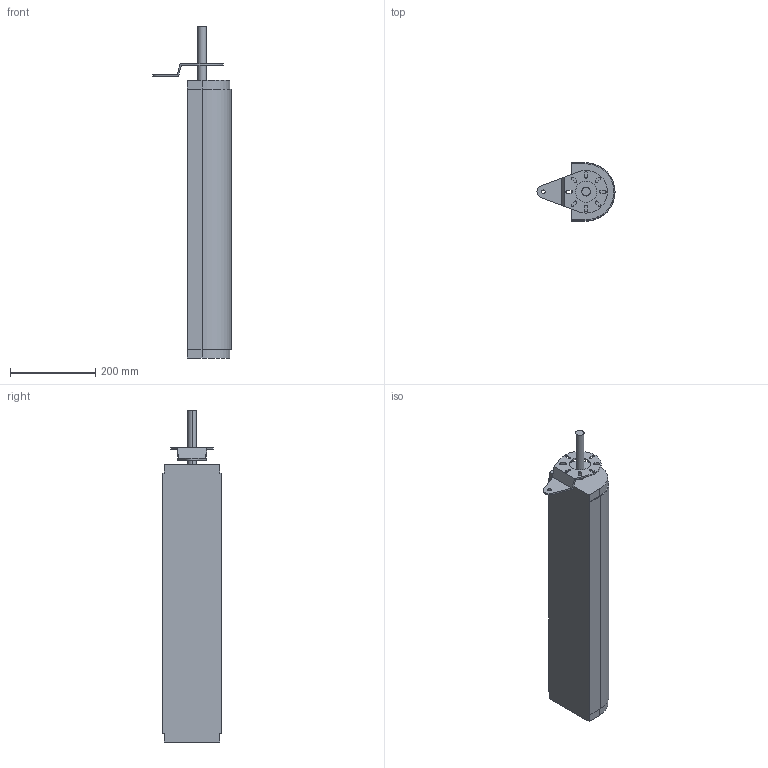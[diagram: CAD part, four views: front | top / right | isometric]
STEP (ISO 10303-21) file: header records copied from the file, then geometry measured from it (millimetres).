
FILE_DESCRIPTION (( 'STEP AP214' ), '1' );
FILE_NAME ('FS-MTC-150 650 rechts ra.STEP', '2017-12-21T09:29:47', ( '' ), ( '' ), 'SwSTEP 2.0', 'SolidWorks 2017', '' );
FILE_SCHEMA (( 'AUTOMOTIVE_DESIGN' ));
Length unit declared in the file: millimetre
Products named in the file (1): FS-MTC-150 650 rechts ra
Bounding box: 183 x 136 x 778 mm (x, y, z)
Volume: 7871572.2 mm3; surface area: 327744.6 mm2
Topology: 2 solids, 2 shells, 70 faces, 195 edges, 130 vertices
Faces by surface type: plane 36, cylinder 34
Entity records: 2350 total; most frequent: DIRECTION 405, CARTESIAN_POINT 396, ORIENTED_EDGE 390, EDGE_CURVE 195, AXIS2_PLACEMENT_3D 139, VERTEX_POINT 130, LINE 127, VECTOR 127
